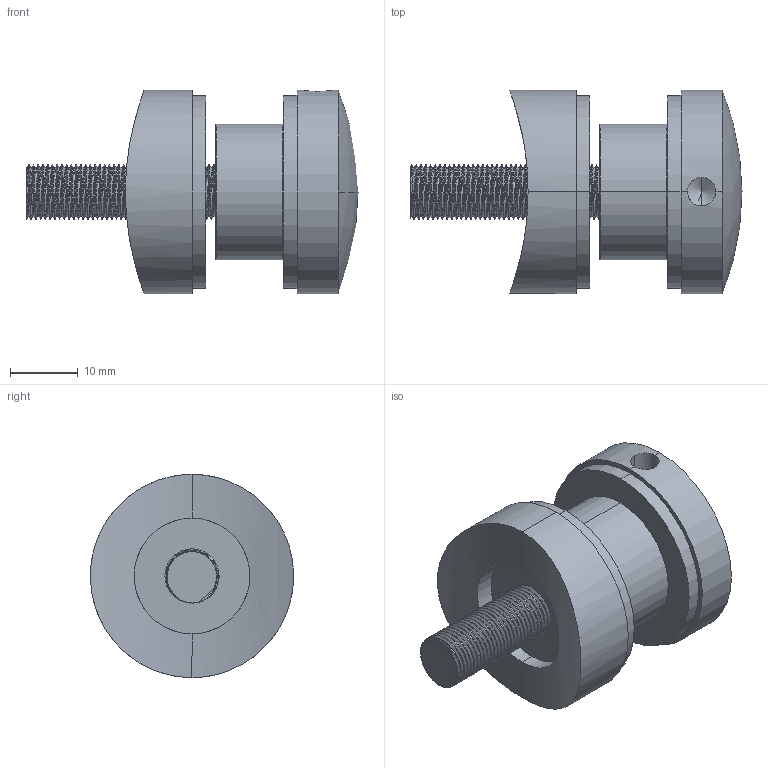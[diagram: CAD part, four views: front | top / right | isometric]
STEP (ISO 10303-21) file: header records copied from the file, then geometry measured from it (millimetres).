
FILE_DESCRIPTION (( 'STEP AP203' ), '1' );
FILE_NAME ('3D_GG4182_42.4_188642120.STEP', '2024-09-26T08:14:09', ( '' ), ( '' ), 'SwSTEP 2.0', 'SolidWorks 2024', '' );
FILE_SCHEMA (( 'CONFIG_CONTROL_DESIGN' ));
Length unit declared in the file: millimetre
Products named in the file (1): 3D_GG4182_42.4_188642120
Bounding box: 49 x 30 x 30 mm (x, y, z)
Volume: 16746.2 mm3; surface area: 11153.1 mm2
Topology: 6 solids, 6 shells, 173 faces, 467 edges, 304 vertices
Faces by surface type: cylinder 144, plane 12, torus 8, cone 4, bspline 3, sphere 2
Entity records: 12114 total; most frequent: CARTESIAN_POINT 8378, ORIENTED_EDGE 926, DIRECTION 626, EDGE_CURVE 463, VERTEX_POINT 304, AXIS2_PLACEMENT_3D 239, EDGE_LOOP 183, ADVANCED_FACE 173
